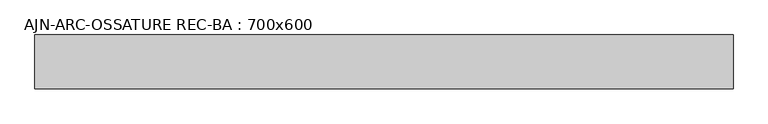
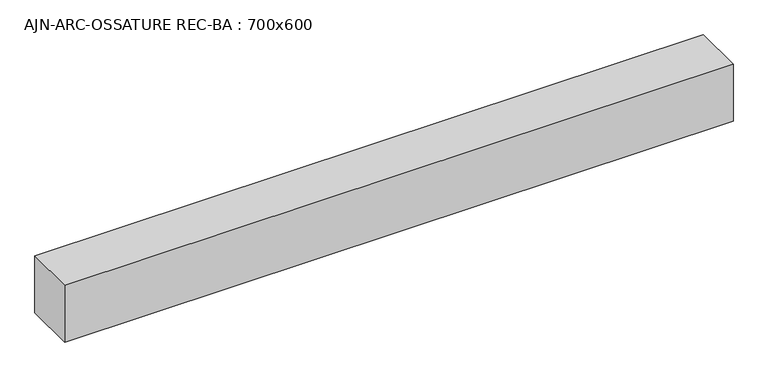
"""IFC4 building model written with IfcOpenShell, lengths in millimetres: beam geometry, AJN-ARC-OSSATURE REC-BA : 700x600."""

from ifc_helpers import new_model, si_unit, frame, origin, place, context, project, spatial, polyline, outline, extrude, source, transform, mapped, element, save


def ajn_arc_ossature_rec_ba_700x600_6677e51c(model_context):
    return source(origin(), model_context, "Body", "SweptSolid", [
        extrude(outline(polyline([(3900.0, 300.0), (3900.0, -300.0), (-3900.0, -300.0), (-3900.0, 300.0), (3900.0, 300.0)])), frame((0.0, 0.0, -350.0), z_axis=(0.0, 0.0, 1.0), x_axis=(1.0, 0.0, 0.0)), (0.0, 0.0, 1.0), 700.0),
    ])


if __name__ == "__main__":
    model = new_model("IFC4")
    model_context = context("Model", 3, world=origin())
    ifc_project = project(units=[si_unit("LENGTHUNIT", "METRE", prefix="MILLI")], contexts=[model_context])
    site = spatial("IfcSite", under=ifc_project)
    building = spatial("IfcBuilding", under=site)
    placement = place(None, origin())
    ajn_arc_ossature_rec_ba_700x600_shape = ajn_arc_ossature_rec_ba_700x600_6677e51c(model_context)
    element("IfcBeam", 1, ObjectType="AJN-ARC-OSSATURE REC-BA : 700x600", at=placement, inside=building, context=model_context, shape_type="MappedRepresentation", body=[
        mapped(ajn_arc_ossature_rec_ba_700x600_shape, transform((0.0, 0.0, 0.0), x_axis=(1.0, 0.0, 0.0), y_axis=(0.0, 1.0, 0.0), z_axis=(0.0, 0.0, 1.0))),
    ])
    save(model, "model.ifc")
